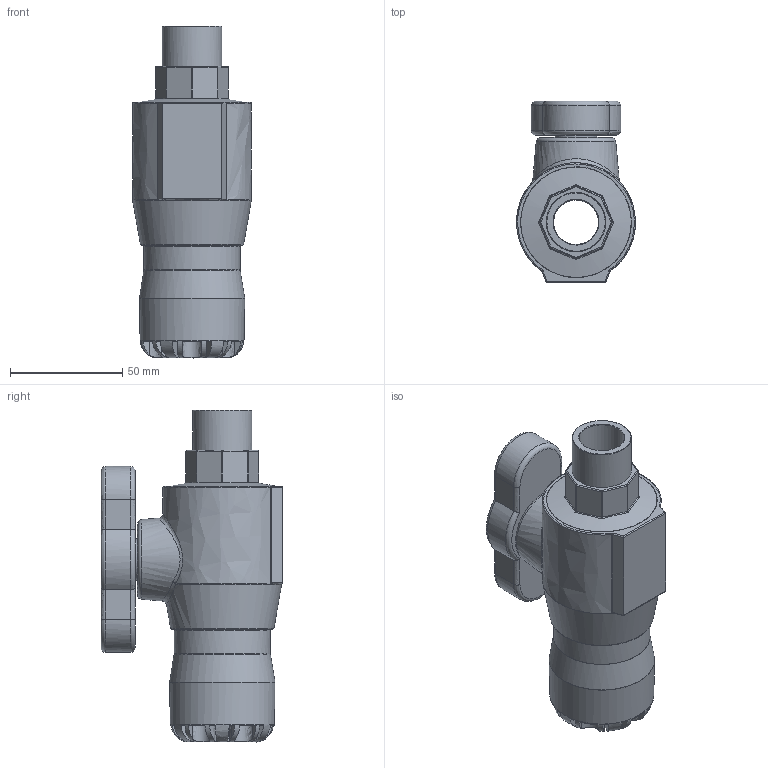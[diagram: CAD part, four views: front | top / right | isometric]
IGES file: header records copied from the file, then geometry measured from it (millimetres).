
Global section: file name: 03710020S00025007_03710020SF0025007; native system: Autodesk Inventor 2019; preprocessor: unknown; author: Lenora; date: 20220418.173250; units: millimetre
Bounding box: 52.99 x 81 x 148 mm (x, y, z)
Volume: 236796.8 mm3; surface area: 43808.8 mm2
Topology: 1 solids, 1 shells, 218 faces, 538 edges, 329 vertices
Faces by surface type: bspline 218
